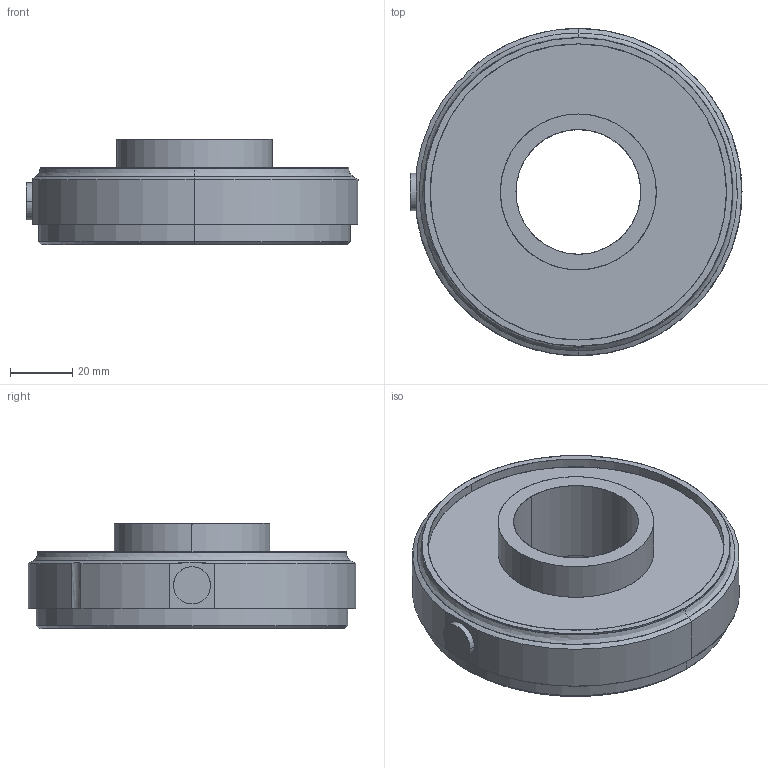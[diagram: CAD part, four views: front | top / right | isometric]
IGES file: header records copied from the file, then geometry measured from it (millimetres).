
Start section: SolidWorks IGES file using analytic representation for surfaces
Global section: file name: C:\Data\SAP_DOC_20200123_IRB390\Lättmodeller_IRB390\Final_4axis\IRB390_15kg_1300_STD_rev0_IGES_J\IRB390_15_1300_STD_4D_TD_00.IGS; native system: SolidWorks 2018; preprocessor: SolidWorks 2018; author: sestdan2; date: 200204.154503; units: millimetre
Bounding box: 106.5 x 105 x 34 mm (x, y, z)
Surface area: 37536.5 mm2 (no closed solid volume)
Topology: 0 solids, 0 shells, 105 faces, 2111 edges, 2109 vertices
Faces by surface type: revolution 83, bspline 22
